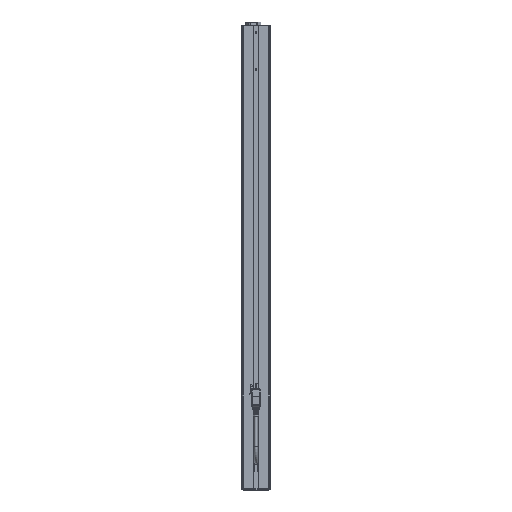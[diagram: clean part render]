
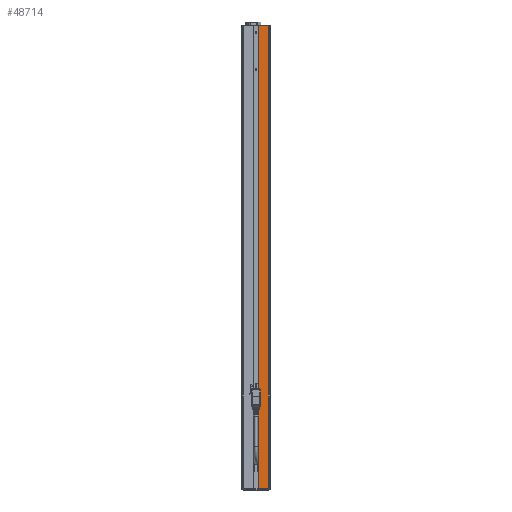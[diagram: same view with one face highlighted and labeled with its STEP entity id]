
A CAD part, top view. The second image highlights one B-rep face of the part: STEP entity #48714.
In plain terms, the highlighted planar face has unit normal (0, 0, 1) as drawn and (-1, 0, 0) by its records, which use the part's own axes.
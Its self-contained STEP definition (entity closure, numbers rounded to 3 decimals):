
#919=PLANE('',#55629);
#3071=LINE('',#72894,#7716);
#3838=LINE('',#76518,#8483);
#4389=LINE('',#78679,#9034);
#4390=LINE('',#78681,#9035);
#7716=VECTOR('',#58927,1000.);
#8483=VECTOR('',#61406,1000.);
#9034=VECTOR('',#63205,1000.);
#9035=VECTOR('',#63208,1000.);
#18403=ORIENTED_EDGE('',*,*,#29210,.F.);
#18404=ORIENTED_EDGE('',*,*,#31581,.F.);
#18405=ORIENTED_EDGE('',*,*,#30639,.T.);
#18406=ORIENTED_EDGE('',*,*,#31582,.T.);
#29210=EDGE_CURVE('',#36638,#36639,#3071,.T.);
#30639=EDGE_CURVE('',#37697,#37696,#3838,.T.);
#31581=EDGE_CURVE('',#37697,#36638,#4389,.T.);
#31582=EDGE_CURVE('',#37696,#36639,#4390,.T.);
#36638=VERTEX_POINT('',#72893);
#36639=VERTEX_POINT('',#72895);
#37696=VERTEX_POINT('',#76517);
#37697=VERTEX_POINT('',#76519);
#42950=EDGE_LOOP('',(#18403,#18404,#18405,#18406));
#45822=FACE_BOUND('',#42950,.T.);
#48714=ADVANCED_FACE('',(#45822),#919,.T.);
#55629=AXIS2_PLACEMENT_3D('',#78680,#63206,#63207);
#58927=DIRECTION('',(0.,0.,-1.));
#61406=DIRECTION('',(0.,0.,-1.));
#63205=DIRECTION('',(0.,-1.,0.));
#63206=DIRECTION('',(-1.,0.,0.));
#63207=DIRECTION('',(0.,0.,1.));
#63208=DIRECTION('',(0.,-1.,0.));
#72893=CARTESIAN_POINT('',(-45.,0.,42.876));
#72894=CARTESIAN_POINT('',(-45.,0.,26.7));
#72895=CARTESIAN_POINT('',(-45.,0.,26.7));
#76517=CARTESIAN_POINT('',(-45.,731.,26.7));
#76518=CARTESIAN_POINT('',(-45.,731.,26.7));
#76519=CARTESIAN_POINT('',(-45.,731.,42.876));
#78679=CARTESIAN_POINT('',(-45.,731.,42.876));
#78680=CARTESIAN_POINT('',(-45.,731.,26.7));
#78681=CARTESIAN_POINT('',(-45.,731.,26.7));
